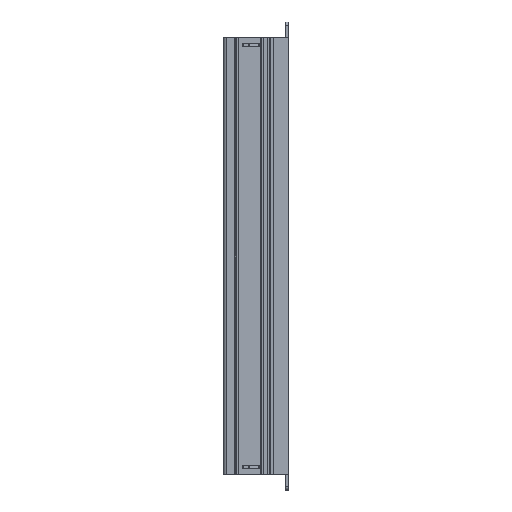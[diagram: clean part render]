
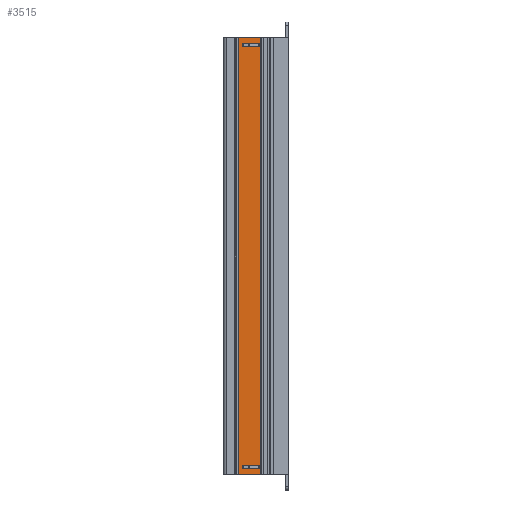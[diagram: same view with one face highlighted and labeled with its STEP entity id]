
A CAD part, left-side view. The second image highlights one B-rep face of the part: STEP entity #3515.
In plain terms, the highlighted planar face has unit normal (-1, 0, 0).
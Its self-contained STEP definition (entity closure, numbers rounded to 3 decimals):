
#359=DIRECTION('',(0.,-1.,0.));
#360=VECTOR('',#359,7.);
#361=CARTESIAN_POINT('',(-12.75,5.8,-70.));
#362=LINE('',#361,#360);
#1101=DIRECTION('',(0.,-1.,0.));
#1102=VECTOR('',#1101,7.);
#1103=CARTESIAN_POINT('',(-12.75,5.8,70.));
#1104=LINE('',#1103,#1102);
#1377=DIRECTION('',(0.,0.,1.));
#1378=VECTOR('',#1377,140.);
#1379=CARTESIAN_POINT('',(-12.75,-1.2,-70.));
#1380=LINE('',#1379,#1378);
#1381=DIRECTION('',(0.,0.,1.));
#1382=VECTOR('',#1381,140.);
#1383=CARTESIAN_POINT('',(-12.75,5.8,-70.));
#1384=LINE('',#1383,#1382);
#1401=DIRECTION('',(0.,-1.,0.));
#1402=VECTOR('',#1401,5.6);
#1403=CARTESIAN_POINT('',(-12.75,4.8,-67.1));
#1404=LINE('',#1403,#1402);
#1405=DIRECTION('',(0.,0.,1.));
#1406=VECTOR('',#1405,1.1);
#1407=CARTESIAN_POINT('',(-12.75,4.8,-68.2));
#1408=LINE('',#1407,#1406);
#1409=DIRECTION('',(0.,1.,0.));
#1410=VECTOR('',#1409,5.6);
#1411=CARTESIAN_POINT('',(-12.75,-0.8,-68.2));
#1412=LINE('',#1411,#1410);
#1413=DIRECTION('',(0.,0.,-1.));
#1414=VECTOR('',#1413,1.1);
#1415=CARTESIAN_POINT('',(-12.75,-0.8,-67.1));
#1416=LINE('',#1415,#1414);
#1417=DIRECTION('',(0.,0.,1.));
#1418=VECTOR('',#1417,1.1);
#1419=CARTESIAN_POINT('',(-12.75,4.8,67.1));
#1420=LINE('',#1419,#1418);
#1421=DIRECTION('',(0.,1.,0.));
#1422=VECTOR('',#1421,5.6);
#1423=CARTESIAN_POINT('',(-12.75,-0.8,67.1));
#1424=LINE('',#1423,#1422);
#1425=DIRECTION('',(0.,0.,-1.));
#1426=VECTOR('',#1425,1.1);
#1427=CARTESIAN_POINT('',(-12.75,-0.8,68.2));
#1428=LINE('',#1427,#1426);
#1429=DIRECTION('',(0.,-1.,0.));
#1430=VECTOR('',#1429,5.6);
#1431=CARTESIAN_POINT('',(-12.75,4.8,68.2));
#1432=LINE('',#1431,#1430);
#1865=CARTESIAN_POINT('',(-12.75,5.8,-70.));
#1866=CARTESIAN_POINT('',(-12.75,5.8,70.));
#1867=VERTEX_POINT('',#1865);
#1868=VERTEX_POINT('',#1866);
#1873=CARTESIAN_POINT('',(-12.75,-1.2,-70.));
#1874=CARTESIAN_POINT('',(-12.75,-1.2,70.));
#1875=VERTEX_POINT('',#1873);
#1876=VERTEX_POINT('',#1874);
#1917=CARTESIAN_POINT('',(-12.75,4.8,-67.1));
#1918=CARTESIAN_POINT('',(-12.75,-0.8,-67.1));
#1919=VERTEX_POINT('',#1917);
#1920=VERTEX_POINT('',#1918);
#1921=CARTESIAN_POINT('',(-12.75,-0.8,-68.2));
#1922=VERTEX_POINT('',#1921);
#1923=CARTESIAN_POINT('',(-12.75,4.8,-68.2));
#1924=VERTEX_POINT('',#1923);
#1925=CARTESIAN_POINT('',(-12.75,4.8,67.1));
#1926=CARTESIAN_POINT('',(-12.75,4.8,68.2));
#1927=VERTEX_POINT('',#1925);
#1928=VERTEX_POINT('',#1926);
#1929=CARTESIAN_POINT('',(-12.75,-0.8,68.2));
#1930=VERTEX_POINT('',#1929);
#1931=CARTESIAN_POINT('',(-12.75,-0.8,67.1));
#1932=VERTEX_POINT('',#1931);
#3483=CARTESIAN_POINT('',(-12.75,10.,-70.));
#3484=DIRECTION('',(-1.,0.,0.));
#3485=DIRECTION('',(0.,-1.,0.));
#3486=AXIS2_PLACEMENT_3D('',#3483,#3484,#3485);
#3487=PLANE('',#3486);
#3489=ORIENTED_EDGE('',*,*,#3488,.F.);
#3490=ORIENTED_EDGE('',*,*,#2274,.F.);
#3492=ORIENTED_EDGE('',*,*,#3491,.T.);
#3493=ORIENTED_EDGE('',*,*,#3001,.T.);
#3494=EDGE_LOOP('',(#3489,#3490,#3492,#3493));
#3495=FACE_OUTER_BOUND('',#3494,.F.);
#3496=ORIENTED_EDGE('',*,*,#3458,.F.);
#3498=ORIENTED_EDGE('',*,*,#3497,.F.);
#3500=ORIENTED_EDGE('',*,*,#3499,.F.);
#3502=ORIENTED_EDGE('',*,*,#3501,.F.);
#3503=EDGE_LOOP('',(#3496,#3498,#3500,#3502));
#3504=FACE_BOUND('',#3503,.F.);
#3506=ORIENTED_EDGE('',*,*,#3505,.F.);
#3508=ORIENTED_EDGE('',*,*,#3507,.F.);
#3510=ORIENTED_EDGE('',*,*,#3509,.F.);
#3512=ORIENTED_EDGE('',*,*,#3511,.F.);
#3513=EDGE_LOOP('',(#3506,#3508,#3510,#3512));
#3514=FACE_BOUND('',#3513,.F.);
#3515=ADVANCED_FACE('',(#3495,#3504,#3514),#3487,.T.);
#2274=EDGE_CURVE('',#1867,#1875,#362,.T.);
#3001=EDGE_CURVE('',#1868,#1876,#1104,.T.);
#3458=EDGE_CURVE('',#1919,#1920,#1404,.T.);
#3488=EDGE_CURVE('',#1875,#1876,#1380,.T.);
#3491=EDGE_CURVE('',#1867,#1868,#1384,.T.);
#3497=EDGE_CURVE('',#1924,#1919,#1408,.T.);
#3499=EDGE_CURVE('',#1922,#1924,#1412,.T.);
#3501=EDGE_CURVE('',#1920,#1922,#1416,.T.);
#3505=EDGE_CURVE('',#1927,#1928,#1420,.T.);
#3507=EDGE_CURVE('',#1932,#1927,#1424,.T.);
#3509=EDGE_CURVE('',#1930,#1932,#1428,.T.);
#3511=EDGE_CURVE('',#1928,#1930,#1432,.T.);
